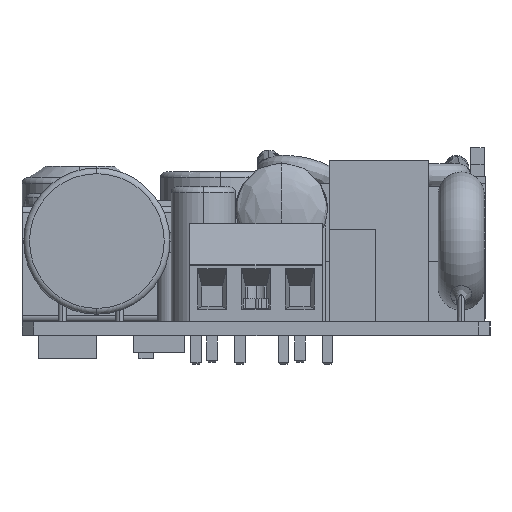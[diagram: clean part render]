
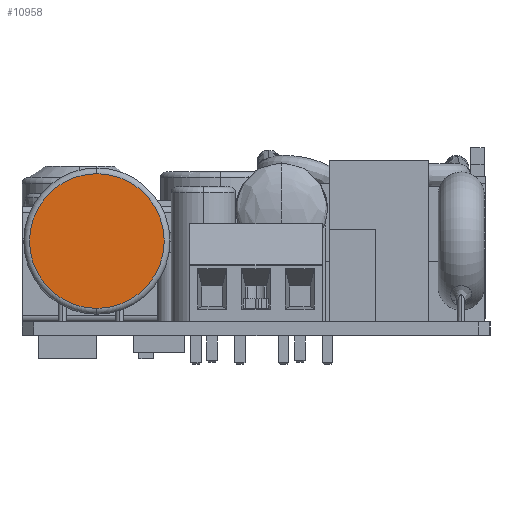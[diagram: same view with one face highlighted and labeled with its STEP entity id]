
A CAD part, left-side view. The second image highlights one B-rep face of the part: STEP entity #10958.
In plain terms, the highlighted planar face has unit normal (-1, 0, 0).
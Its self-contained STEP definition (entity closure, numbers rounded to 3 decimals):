
#10294 = VERTEX_POINT ( 'NONE', #20358 ) ;
#10296 = VERTEX_POINT ( 'NONE', #20356 ) ;
#10304 = EDGE_CURVE ( 'NONE', #10296, #10294, #20339, .T. ) ;
#10958 = ADVANCED_FACE ( 'NONE', ( #24055 ), #24048, .T. ) ;
#10960 = EDGE_LOOP ( 'NONE', ( #10961, #10962 ) ) ;
#10961 = ORIENTED_EDGE ( 'NONE', *, *, #10304, .T. ) ;
#10962 = ORIENTED_EDGE ( 'NONE', *, *, #10963, .T. ) ;
#10963 = EDGE_CURVE ( 'NONE', #10294, #10296, #24049, .T. ) ;
#20331 = DIRECTION ( 'NONE',  ( 0., 0., 1. ) ) ;
#20333 = DIRECTION ( 'NONE',  ( -1., 0., 0. ) ) ;
#20335 = CARTESIAN_POINT ( 'NONE',  ( 51.3, 95.1, 8.2 ) ) ;
#20337 = AXIS2_PLACEMENT_3D ( 'NONE', #20335, #20333, #20331 ) ;
#20339 = CIRCLE ( 'NONE', #20337, 5.85 ) ;
#20356 = CARTESIAN_POINT ( 'NONE',  ( 51.3, 95.1, 14.05 ) ) ;
#20358 = CARTESIAN_POINT ( 'NONE',  ( 51.3, 95.1, 2.35 ) ) ;
#24041 = DIRECTION ( 'NONE',  ( 0., 0., 1. ) ) ;
#24043 = DIRECTION ( 'NONE',  ( -1., 0., 0. ) ) ;
#24044 = CARTESIAN_POINT ( 'NONE',  ( 51.3, 95.1, 8.2 ) ) ;
#24046 = AXIS2_PLACEMENT_3D ( 'NONE', #24044, #24043, #24041 ) ;
#24048 = PLANE ( 'NONE',  #24046 ) ;
#24049 = CIRCLE ( 'NONE', #24167, 5.85 ) ;
#24055 = FACE_OUTER_BOUND ( 'NONE', #10960, .T. ) ;
#24162 = DIRECTION ( 'NONE',  ( 0., 0., 1. ) ) ;
#24164 = DIRECTION ( 'NONE',  ( -1., 0., 0. ) ) ;
#24166 = CARTESIAN_POINT ( 'NONE',  ( 51.3, 95.1, 8.2 ) ) ;
#24167 = AXIS2_PLACEMENT_3D ( 'NONE', #24166, #24164, #24162 ) ;
